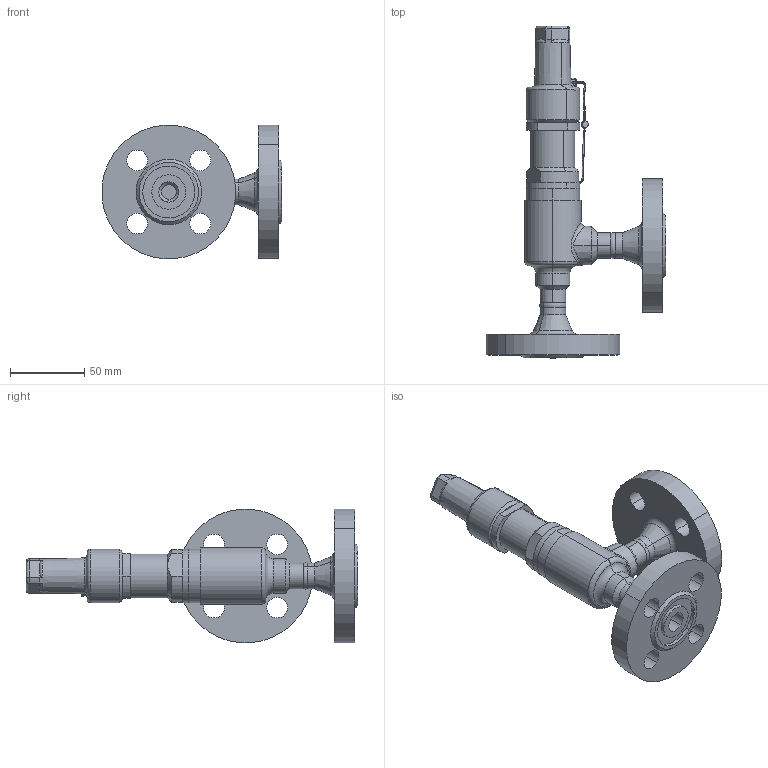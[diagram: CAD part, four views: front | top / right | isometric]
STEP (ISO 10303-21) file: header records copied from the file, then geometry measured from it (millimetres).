
FILE_DESCRIPTION (( 'STEP AP214' ), '1' );
FILE_NAME ('SVUA 44820C08-DN10-10_DIN-FL.STEP', '2010-09-07T13:59:02', ( 'Eckhard Grams' ), ( 'AWP Kälte Klima Armaturen GmbH' ), 'SwSTEP 2.0', 'SolidWorks 2002296', '' );
FILE_SCHEMA (( 'AUTOMOTIVE_DESIGN' ));
Length unit declared in the file: millimetre
Products named in the file (11): SVUA 44820C08-DN10-10_DIN-FL; Geh,kpl 42220E08-DN10-10_DIN-FL_PS40_Standard; Gehäuse42200E08-DN10-10_PS40_R1_Standard; Flansch-DIN2635-Nut_PS40_DIN-Flansch-DN010_PS40-Nut; bead Geh.kpl 42220-08-2_Standard; bead Geh.kpl 42220-08-1_Standard; Deckel 44551-07-DN 8-15_PS40_Standard; Klemmring 44551-07-DN 8-15_Standard; Einstellschr 44551-07-8080002_DN 8-15_Standard; Kappe 36302-10_DN6-15 (M27x1)_Standard; Blombe-Schnur_Standard
Assembly tree (11 placements, depth 3):
  SVUA 44820C08-DN10-10_DIN-FL
    Kappe 36302-10_DN6-15 (M27x1)_Standard
    Geh,kpl 42220E08-DN10-10_DIN-FL_PS40_Standard
      Gehäuse42200E08-DN10-10_PS40_R1_Standard
      Flansch-DIN2635-Nut_PS40_DIN-Flansch-DN010_PS40-Nut  x2
      bead Geh.kpl 42220-08-1_Standard
      bead Geh.kpl 42220-08-2_Standard
    Blombe-Schnur_Standard
    Klemmring 44551-07-DN 8-15_Standard
    Einstellschr 44551-07-8080002_DN 8-15_Standard
    Deckel 44551-07-DN 8-15_PS40_Standard
Bounding box: 120.83 x 223 x 89.66 mm (x, y, z)
Volume: 278433.7 mm3; surface area: 88121.7 mm2
Topology: 10 solids, 10 shells, 320 faces, 715 edges, 433 vertices
Faces by surface type: cylinder 130, plane 64, cone 59, torus 36, bspline 31
Entity records: 24036 total; most frequent: CARTESIAN_POINT 16625, DIRECTION 1393, ORIENTED_EDGE 1286, EDGE_CURVE 643, AXIS2_PLACEMENT_3D 595, VERTEX_POINT 387, EDGE_LOOP 330, CIRCLE 323
